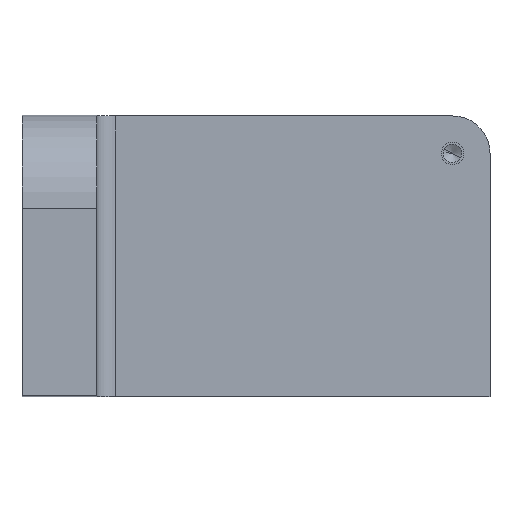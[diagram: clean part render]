
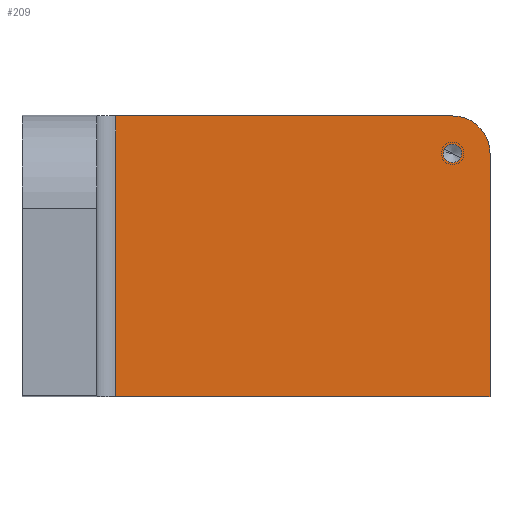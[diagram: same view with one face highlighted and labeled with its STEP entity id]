
A CAD part, top view. The second image highlights one B-rep face of the part: STEP entity #209.
In plain terms, the highlighted planar face has unit normal (0, 0, 1).
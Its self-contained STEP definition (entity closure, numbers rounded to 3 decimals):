
#144=CARTESIAN_POINT('Axis2P3D Location',(0.,0.,20.)) ;
#149=CARTESIAN_POINT('Line Origine',(75.,0.,20.)) ;
#153=CARTESIAN_POINT('Vertex',(25.,0.,20.)) ;
#155=CARTESIAN_POINT('Vertex',(125.,0.,20.)) ;
#158=CARTESIAN_POINT('Line Origine',(125.,32.5,20.)) ;
#162=CARTESIAN_POINT('Vertex',(125.,65.,20.)) ;
#165=CARTESIAN_POINT('Axis2P3D Location',(115.,65.,20.)) ;
#169=CARTESIAN_POINT('Vertex',(115.,75.,20.)) ;
#172=CARTESIAN_POINT('Line Origine',(70.,75.,20.)) ;
#176=CARTESIAN_POINT('Vertex',(25.,75.,20.)) ;
#179=CARTESIAN_POINT('Line Origine',(25.,37.5,20.)) ;
#191=CARTESIAN_POINT('Axis2P3D Location',(115.,65.,20.)) ;
#195=CARTESIAN_POINT('Vertex',(112.842,66.179,20.)) ;
#197=CARTESIAN_POINT('Vertex',(117.158,63.821,20.)) ;
#200=CARTESIAN_POINT('Axis2P3D Location',(115.,65.,20.)) ;
#145=DIRECTION('Axis2P3D Direction',(0.,0.,1.)) ;
#146=DIRECTION('Axis2P3D XDirection',(1.,0.,0.)) ;
#150=DIRECTION('Vector Direction',(1.,0.,0.)) ;
#159=DIRECTION('Vector Direction',(0.,1.,0.)) ;
#166=DIRECTION('Axis2P3D Direction',(0.,0.,1.)) ;
#173=DIRECTION('Vector Direction',(-1.,0.,0.)) ;
#180=DIRECTION('Vector Direction',(0.,-1.,0.)) ;
#192=DIRECTION('Axis2P3D Direction',(0.,0.,1.)) ;
#201=DIRECTION('Axis2P3D Direction',(0.,0.,1.)) ;
#147=AXIS2_PLACEMENT_3D('Plane Axis2P3D',#144,#145,#146) ;
#167=AXIS2_PLACEMENT_3D('Circle Axis2P3D',#165,#166,$) ;
#193=AXIS2_PLACEMENT_3D('Circle Axis2P3D',#191,#192,$) ;
#202=AXIS2_PLACEMENT_3D('Circle Axis2P3D',#200,#201,$) ;
#185=ORIENTED_EDGE('',*,*,#157,.T.) ;
#186=ORIENTED_EDGE('',*,*,#164,.T.) ;
#187=ORIENTED_EDGE('',*,*,#171,.T.) ;
#188=ORIENTED_EDGE('',*,*,#178,.T.) ;
#189=ORIENTED_EDGE('',*,*,#183,.F.) ;
#206=ORIENTED_EDGE('',*,*,#199,.F.) ;
#207=ORIENTED_EDGE('',*,*,#204,.F.) ;
#208=FACE_BOUND('',#205,.T.) ;
#151=VECTOR('Line Direction',#150,1.) ;
#160=VECTOR('Line Direction',#159,1.) ;
#174=VECTOR('Line Direction',#173,1.) ;
#181=VECTOR('Line Direction',#180,1.) ;
#209=ADVANCED_FACE('PartBody',(#190,#208),#148,.T.) ;
#168=CIRCLE('generated circle',#167,10.) ;
#194=CIRCLE('generated circle',#193,2.459) ;
#203=CIRCLE('generated circle',#202,2.459) ;
#157=EDGE_CURVE('',#154,#156,#152,.T.) ;
#164=EDGE_CURVE('',#156,#163,#161,.T.) ;
#171=EDGE_CURVE('',#163,#170,#168,.T.) ;
#178=EDGE_CURVE('',#170,#177,#175,.T.) ;
#183=EDGE_CURVE('',#154,#177,#182,.F.) ;
#199=EDGE_CURVE('',#196,#198,#194,.T.) ;
#204=EDGE_CURVE('',#198,#196,#203,.T.) ;
#184=EDGE_LOOP('',(#185,#186,#187,#188,#189)) ;
#205=EDGE_LOOP('',(#206,#207)) ;
#190=FACE_OUTER_BOUND('',#184,.T.) ;
#152=LINE('Line',#149,#151) ;
#161=LINE('Line',#158,#160) ;
#175=LINE('Line',#172,#174) ;
#182=LINE('Line',#179,#181) ;
#148=PLANE('',#147) ;
#154=VERTEX_POINT('',#153) ;
#156=VERTEX_POINT('',#155) ;
#163=VERTEX_POINT('',#162) ;
#170=VERTEX_POINT('',#169) ;
#177=VERTEX_POINT('',#176) ;
#196=VERTEX_POINT('',#195) ;
#198=VERTEX_POINT('',#197) ;
